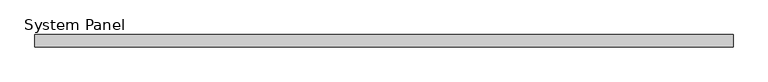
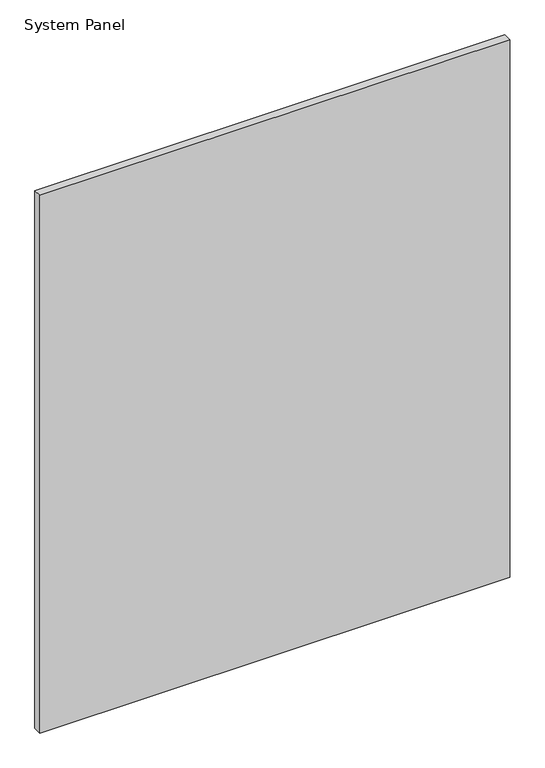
"""IFC4 building model written with IfcOpenShell, lengths in millimetres: plate geometry, System Panel : Panel_Glazed_Generic Showcase_30mm."""

from ifc_helpers import new_model, si_unit, origin, origin_with_axes, place, context, project, spatial, polyline, outline, extrude, source, transform, mapped, element, save


def system_panel_08dd8473(model_context):
    return source(origin(), model_context, "Body", "SweptSolid", [
        extrude(outline(polyline([(847.226735, 0.0), (-847.226735, 0.0), (-847.226735, 30.0), (847.226735, 30.0), (847.226735, 0.0)])), origin_with_axes(), (0.0, 0.0, 1.0), 2050.0),
    ])


if __name__ == "__main__":
    model = new_model("IFC4")
    model_context = context("Model", 3, world=origin())
    ifc_project = project(units=[si_unit("LENGTHUNIT", "METRE", prefix="MILLI")], contexts=[model_context])
    site = spatial("IfcSite", under=ifc_project)
    building = spatial("IfcBuilding", under=site)
    placement = place(None, origin())
    system_panel_shape = system_panel_08dd8473(model_context)
    element("IfcPlate", 1, ObjectType="System Panel : Panel_Glazed_Generic Showcase_30mm", at=placement, inside=building, context=model_context, shape_type="MappedRepresentation", body=[
        mapped(system_panel_shape, transform((0.0, 0.0, 0.0), x_axis=(1.0, 0.0, 0.0), y_axis=(0.0, 1.0, 0.0), z_axis=(0.0, 0.0, 1.0))),
    ])
    save(model, "model.ifc")
